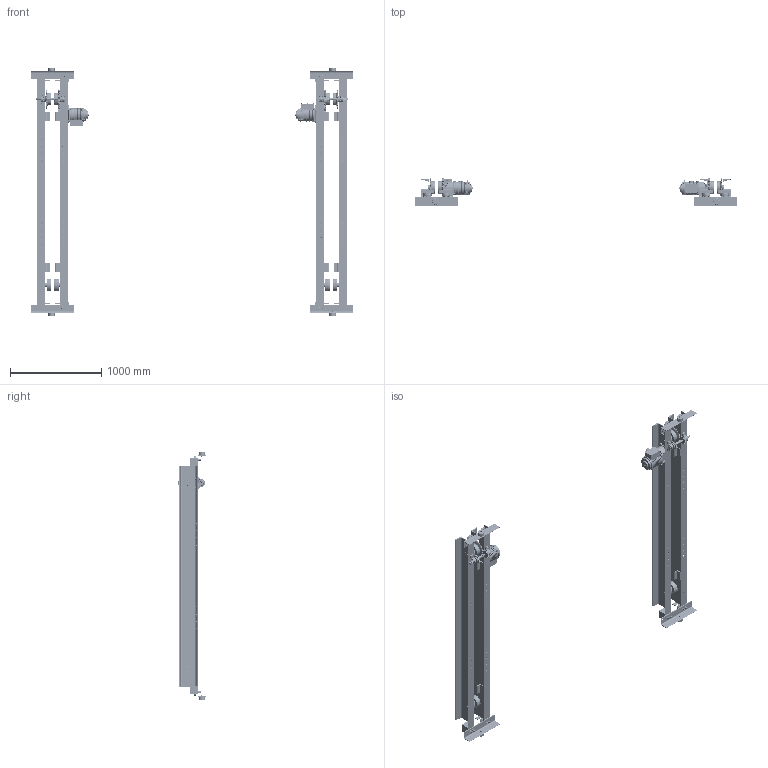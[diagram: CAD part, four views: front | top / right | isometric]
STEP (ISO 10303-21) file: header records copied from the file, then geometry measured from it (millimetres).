
FILE_DESCRIPTION (( 'STEP AP214' ), '1' );
FILE_NAME ('MUML-3-0550.STEP', '2026-08-18T15:07:00', ( '' ), ( '' ), 'SwSTEP 2.0', 'SolidWorks 2026', '' );
FILE_SCHEMA (( 'AUTOMOTIVE_DESIGN' ));
Length unit declared in the file: inch
Products named in the file (86): G1JE040S9707; 9012709_Rectangular section spring washer BS 4464 - 16 (Type B); N6QL210116; 6257003; 6257005; 6257002_A308-308-006; N6QL520113; 9091256_B18.3.1M - 6 x 1.0 x 50 Hex SHCS -- 24CHX; N6QL210209; N6QL530E9101_Domestic; MS555010_MS555010; MUML-3-0550; MC08-021.4_95; G1JE040S9303; 6234503; 6232603; G1JE040S9701; 9047125_B27.7M - 3AM1-23; 9091250_9091250; 9093433_9093433; 9093427_9093427; 9047140_9047140; 9012519_9012519; 9047268_B27.7M - 3BM1-68; 9012707_9012707; 9093354_9093354; G1JE025S9603; 9047252_9047252; G1JE040S9301; N6QL210115; 6232303; 9798526_9798526; G1JE040S9310; 9093424_9093424; G1JE040S9609; G1CM040L_ROTATED 180 DEGREES; 6257001; N6Q0310E9108; 9093101_9093101; 9047120_9047120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
Assembly tree (386 placements, depth 5):
  MUML-3-0550
    62360X_62360-2
      62357X_62357-2
        MC08-021.4_95
        6257003
          6257002_A308-308-006
          6257001
        6257003
          6257002_A308-308-006
          6257001
      6232303  x2
      6232304  x2
      5204405_5204405  x2
      6233203  x2
      6257005
    62361X_62361-2  x2
      62358X_62358-2
        MC08-021.4_95
        6257003
          6257002_A308-308-006
          6257001
        6257003
          6257002_A308-308-006
          6257001
      6232303
      6232304
      5204405_5204405
      6233203
    62362X_62362-2
      62359X_62359-2
        MC08-021.4_95
        6257003
          6257002_A308-308-006
          6257001
        6257003
          6257002_A308-308-006
          6257001
      6232303  x2
      6232304  x2
      5204405_5204405  x2
      6233203  x2
    6234503  x4
      6232603
      9047268_B27.7M - 3BM1-68
      9000508
    6232403  x8
    9047140_9047140  x8
    N6QL5301101  x4
      N6QL530E9101_Domestic
      9047268_B27.7M - 3BM1-68
      9000508
    6232404  x8
    9047125_B27.7M - 3AM1-23  x8
    9012515_9012515  x16
    9093433_9093433  x32
    9093146_9093146  x8
    N6QL210207  x4
    9012514_9012514  x12
    9093101_9093101  x4
    9093424_9093424  x8
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Bounding box: 3519.98 x 302.93 x 2719.61 mm (x, y, z)
Volume: 57857694 mm3; surface area: 11603033.2 mm2
Topology: 409 solids, 505 shells, 25626 faces, 66482 edges, 42992 vertices
Faces by surface type: plane 12318, cylinder 7322, cone 3306, bspline 1610, torus 858, sphere 212
Entity records: 189138 total; most frequent: CARTESIAN_POINT 59707, ORIENTED_EDGE 26222, DIRECTION 25674, EDGE_CURVE 13115, AXIS2_PLACEMENT_3D 10054, VERTEX_POINT 8394, LINE 5566, VECTOR 5566
